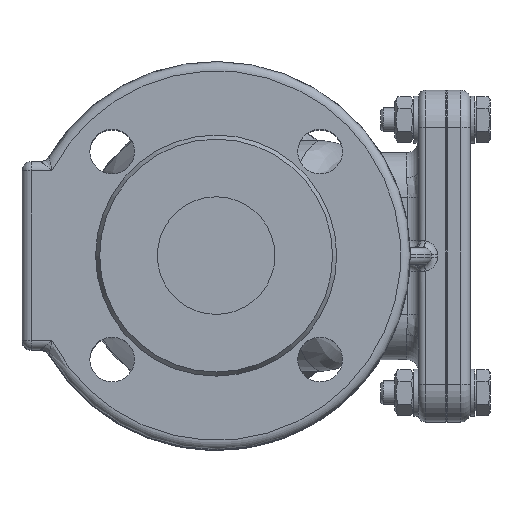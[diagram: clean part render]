
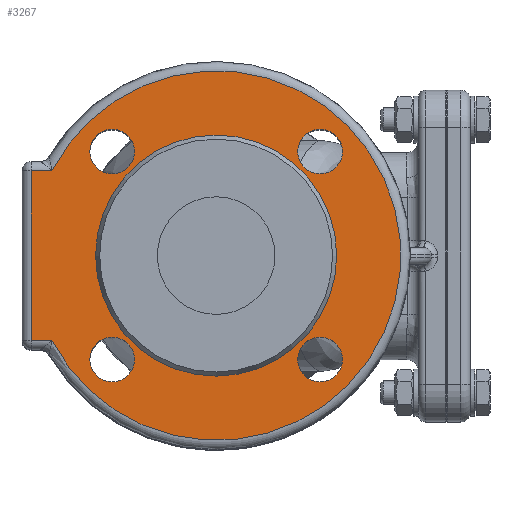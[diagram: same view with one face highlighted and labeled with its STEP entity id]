
A CAD part, top view. The second image highlights one B-rep face of the part: STEP entity #3267.
In plain terms, the highlighted planar face has unit normal (0, 0, 1).
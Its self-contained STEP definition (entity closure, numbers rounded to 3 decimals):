
#3267=ADVANCED_FACE('',(#9607,#9609,#9611,#9613,#9615,#9617),#9619,.T.);
#9607=FACE_BOUND('',#9608,.T.);
#9608=EDGE_LOOP('',(#13683,#13684,#13685,#13686));
#9609=FACE_BOUND('',#9610,.T.);
#9610=EDGE_LOOP('',(#13687));
#9611=FACE_BOUND('',#9612,.T.);
#9612=EDGE_LOOP('',(#13688));
#9613=FACE_BOUND('',#9614,.T.);
#9614=EDGE_LOOP('',(#13689));
#9615=FACE_BOUND('',#9616,.T.);
#9616=EDGE_LOOP('',(#13690));
#9617=FACE_BOUND('',#9618,.T.);
#9618=EDGE_LOOP('',(#13691));
#9619=PLANE('',#9620);
#9620=AXIS2_PLACEMENT_3D('',#9621,#9622,#9623);
#9621=CARTESIAN_POINT('',(0.,0.,197.));
#9622=DIRECTION('',(0.,0.,1.));
#9623=DIRECTION('',(-1.,0.,0.));
#13683=ORIENTED_EDGE('',*,*,#16117,.F.);
#13684=ORIENTED_EDGE('',*,*,#16118,.T.);
#13685=ORIENTED_EDGE('',*,*,#16119,.T.);
#13686=ORIENTED_EDGE('',*,*,#16120,.T.);
#13687=ORIENTED_EDGE('',*,*,#16121,.F.);
#13688=ORIENTED_EDGE('',*,*,#16038,.T.);
#13689=ORIENTED_EDGE('',*,*,#16037,.T.);
#13690=ORIENTED_EDGE('',*,*,#16040,.F.);
#13691=ORIENTED_EDGE('',*,*,#16039,.F.);
#16037=EDGE_CURVE('',#18186,#18186,#18187,.T.);
#16038=EDGE_CURVE('',#18188,#18188,#18189,.T.);
#16039=EDGE_CURVE('',#18190,#18190,#18191,.T.);
#16040=EDGE_CURVE('',#18192,#18192,#18193,.T.);
#16117=EDGE_CURVE('',#18319,#18320,#18321,.T.);
#16118=EDGE_CURVE('',#18319,#18322,#18323,.T.);
#16119=EDGE_CURVE('',#18322,#18324,#18325,.T.);
#16120=EDGE_CURVE('',#18324,#18320,#18326,.T.);
#16121=EDGE_CURVE('',#18327,#18327,#18328,.T.);
#18186=VERTEX_POINT('',#37386);
#18187=CIRCLE('',#37387,9.5);
#18188=VERTEX_POINT('',#37391);
#18189=CIRCLE('',#37392,9.5);
#18190=VERTEX_POINT('',#37396);
#18191=CIRCLE('',#37397,9.5);
#18192=VERTEX_POINT('',#37401);
#18193=CIRCLE('',#37402,9.5);
#18319=VERTEX_POINT('',#38282);
#18320=VERTEX_POINT('',#38283);
#18321=LINE('',#38284,#38285);
#18322=VERTEX_POINT('',#38287);
#18323=LINE('',#38288,#38289);
#18324=VERTEX_POINT('',#38291);
#18325=LINE('',#38292,#38293);
#18326=CIRCLE('',#38295,78.5);
#18327=VERTEX_POINT('',#38299);
#18328=CIRCLE('',#38300,51.232);
#37386=CARTESIAN_POINT('',(44.194,53.694,197.));
#37387=AXIS2_PLACEMENT_3D('',#37388,#37389,#37390);
#37388=CARTESIAN_POINT('',(44.194,44.194,197.));
#37389=DIRECTION('',(0.,0.,-1.));
#37390=DIRECTION('',(-1.,0.,0.));
#37391=CARTESIAN_POINT('',(-44.194,53.694,197.));
#37392=AXIS2_PLACEMENT_3D('',#37393,#37394,#37395);
#37393=CARTESIAN_POINT('',(-44.194,44.194,197.));
#37394=DIRECTION('',(0.,0.,-1.));
#37395=DIRECTION('',(-1.,0.,0.));
#37396=CARTESIAN_POINT('',(44.194,-53.694,197.));
#37397=AXIS2_PLACEMENT_3D('',#37398,#37399,#37400);
#37398=CARTESIAN_POINT('',(44.194,-44.194,197.));
#37399=DIRECTION('',(0.,0.,1.));
#37400=DIRECTION('',(-1.,0.,0.));
#37401=CARTESIAN_POINT('',(-44.194,-53.694,197.));
#37402=AXIS2_PLACEMENT_3D('',#37403,#37404,#37405);
#37403=CARTESIAN_POINT('',(-44.194,-44.194,197.));
#37404=DIRECTION('',(0.,0.,1.));
#37405=DIRECTION('',(-1.,0.,0.));
#38282=CARTESIAN_POINT('',(-78.5,36.,197.));
#38283=CARTESIAN_POINT('',(-69.759,36.,197.));
#38284=CARTESIAN_POINT('',(-78.5,36.,197.));
#38285=VECTOR('',#38286,1.);
#38286=DIRECTION('',(1.,0.,0.));
#38287=CARTESIAN_POINT('',(-78.5,-36.,197.));
#38288=CARTESIAN_POINT('',(-78.5,36.,197.));
#38289=VECTOR('',#38290,1.);
#38290=DIRECTION('',(0.,-1.,0.));
#38291=CARTESIAN_POINT('',(-69.759,-36.,197.));
#38292=CARTESIAN_POINT('',(-78.5,-36.,197.));
#38293=VECTOR('',#38294,1.);
#38294=DIRECTION('',(1.,0.,0.));
#38295=AXIS2_PLACEMENT_3D('',#38296,#38297,#38298);
#38296=CARTESIAN_POINT('',(0.,0.,197.));
#38297=DIRECTION('',(0.,0.,1.));
#38298=DIRECTION('',(-0.889,-0.459,0.));
#38299=CARTESIAN_POINT('',(51.232,0.,197.));
#38300=AXIS2_PLACEMENT_3D('',#38301,#38302,#38303);
#38301=CARTESIAN_POINT('',(0.,0.,197.));
#38302=DIRECTION('',(0.,0.,1.));
#38303=DIRECTION('',(1.,0.,0.));
